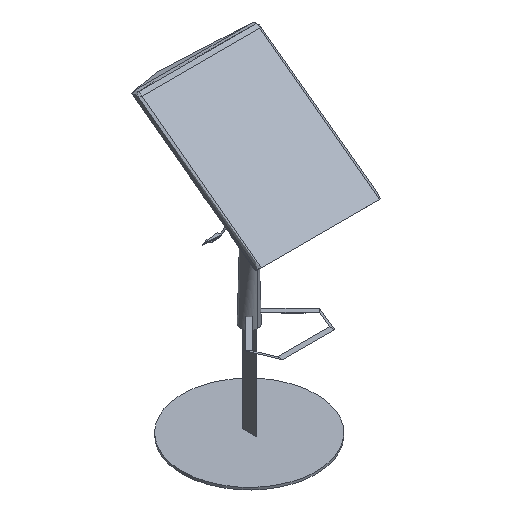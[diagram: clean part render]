
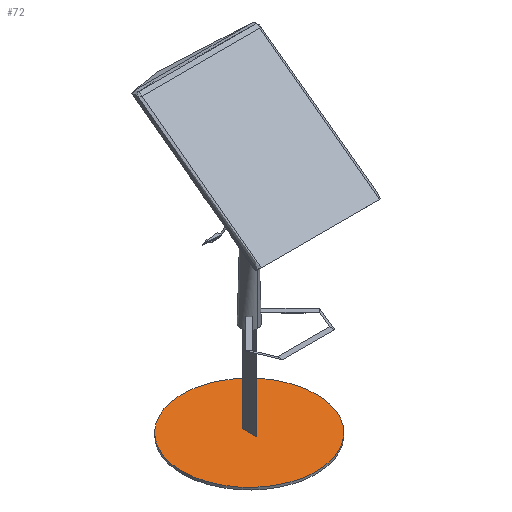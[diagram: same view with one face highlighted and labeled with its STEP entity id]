
A CAD part, isometric view. The second image highlights one B-rep face of the part: STEP entity #72.
In plain terms, the highlighted planar face has unit normal (0, 0, 1).
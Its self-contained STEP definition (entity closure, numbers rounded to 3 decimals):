
#72=ADVANCED_FACE('',(#147),#1033,.T.);
#147=FACE_OUTER_BOUND('',#222,.T.);
#222=EDGE_LOOP('',(#392,#393));
#392=ORIENTED_EDGE('',*,*,#635,.T.);
#393=ORIENTED_EDGE('',*,*,#638,.T.);
#635=EDGE_CURVE('',#923,#925,#780,.T.);
#638=EDGE_CURVE('',#925,#923,#783,.T.);
#780=(
BOUNDED_CURVE()
B_SPLINE_CURVE(2,(#2295,#2296,#2297,#2298,#2299),.UNSPECIFIED.,.F.,.F.)
B_SPLINE_CURVE_WITH_KNOTS((3,2,3),(0.,369.137,738.274),
 .UNSPECIFIED.)
CURVE()
GEOMETRIC_REPRESENTATION_ITEM()
RATIONAL_B_SPLINE_CURVE((1.,0.707,1.,0.707,1.))
REPRESENTATION_ITEM('')
);
#783=(
BOUNDED_CURVE()
B_SPLINE_CURVE(2,(#2307,#2308,#2309,#2310,#2311),.UNSPECIFIED.,.F.,.F.)
B_SPLINE_CURVE_WITH_KNOTS((3,2,3),(738.274,1107.411,1476.549),
 .UNSPECIFIED.)
CURVE()
GEOMETRIC_REPRESENTATION_ITEM()
RATIONAL_B_SPLINE_CURVE((1.,0.707,1.,0.707,1.))
REPRESENTATION_ITEM('')
);
#923=VERTEX_POINT('',#2285);
#925=VERTEX_POINT('',#2287);
#1033=PLANE('',#1147);
#1147=AXIS2_PLACEMENT_3D('',#2273,#1174,$);
#1174=DIRECTION('',(0.,0.,1.));
#2273=CARTESIAN_POINT('',(-293.75,-293.75,8.));
#2285=CARTESIAN_POINT('',(235.,0.,8.));
#2287=CARTESIAN_POINT('',(-235.,0.,8.));
#2295=CARTESIAN_POINT('',(235.,0.,8.));
#2296=CARTESIAN_POINT('',(235.,235.,8.));
#2297=CARTESIAN_POINT('',(0.,235.,8.));
#2298=CARTESIAN_POINT('',(-235.,235.,8.));
#2299=CARTESIAN_POINT('',(-235.,0.,8.));
#2307=CARTESIAN_POINT('',(-235.,0.,8.));
#2308=CARTESIAN_POINT('',(-235.,-235.,8.));
#2309=CARTESIAN_POINT('',(0.,-235.,8.));
#2310=CARTESIAN_POINT('',(235.,-235.,8.));
#2311=CARTESIAN_POINT('',(235.,0.,8.));
